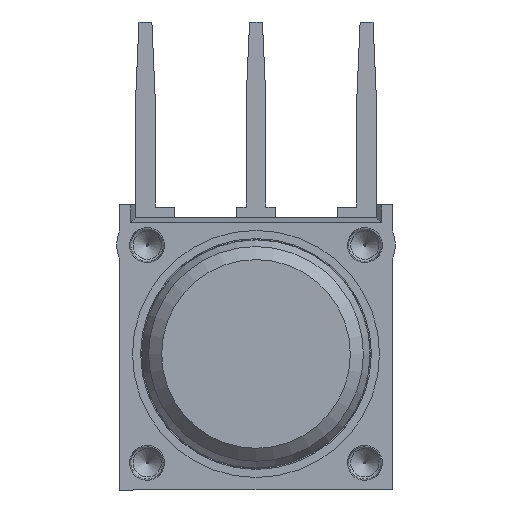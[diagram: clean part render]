
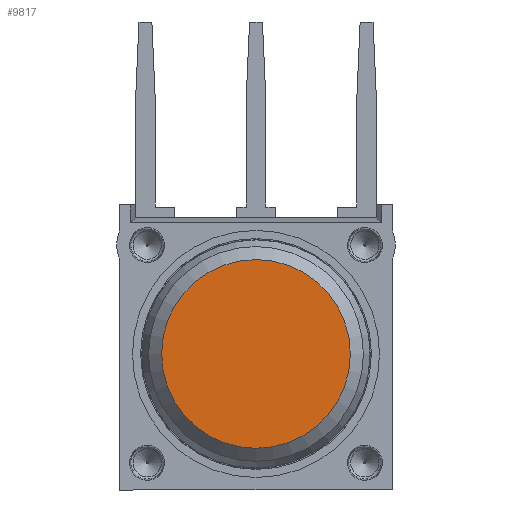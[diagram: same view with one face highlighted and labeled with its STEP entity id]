
A CAD part, left-side view. The second image highlights one B-rep face of the part: STEP entity #9817.
In plain terms, the highlighted planar face has unit normal (-1, 0, 0) as drawn and (0, 0, 1) by its records, which use the part's own axes.
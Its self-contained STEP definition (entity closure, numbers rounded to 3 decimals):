
#560=PLANE('',#11457);
#5018=ORIENTED_EDGE('',*,*,#6380,.T.);
#6380=EDGE_CURVE('',#7306,#7306,#7694,.T.);
#7306=VERTEX_POINT('',#17704);
#7694=CIRCLE('',#11458,4.334);
#8394=EDGE_LOOP('',(#5018));
#9107=FACE_BOUND('',#8394,.T.);
#9817=ADVANCED_FACE('',(#9107),#560,.T.);
#11457=AXIS2_PLACEMENT_3D('',#17702,#14256,#14257);
#11458=AXIS2_PLACEMENT_3D('',#17703,#14258,#14259);
#14256=DIRECTION('',(0.,0.,1.));
#14257=DIRECTION('',(1.,0.,0.));
#14258=DIRECTION('',(0.,0.,1.));
#14259=DIRECTION('',(1.,0.,0.));
#17702=CARTESIAN_POINT('',(0.,0.,1.4));
#17703=CARTESIAN_POINT('',(0.,0.,1.4));
#17704=CARTESIAN_POINT('',(4.334,0.,1.4));
